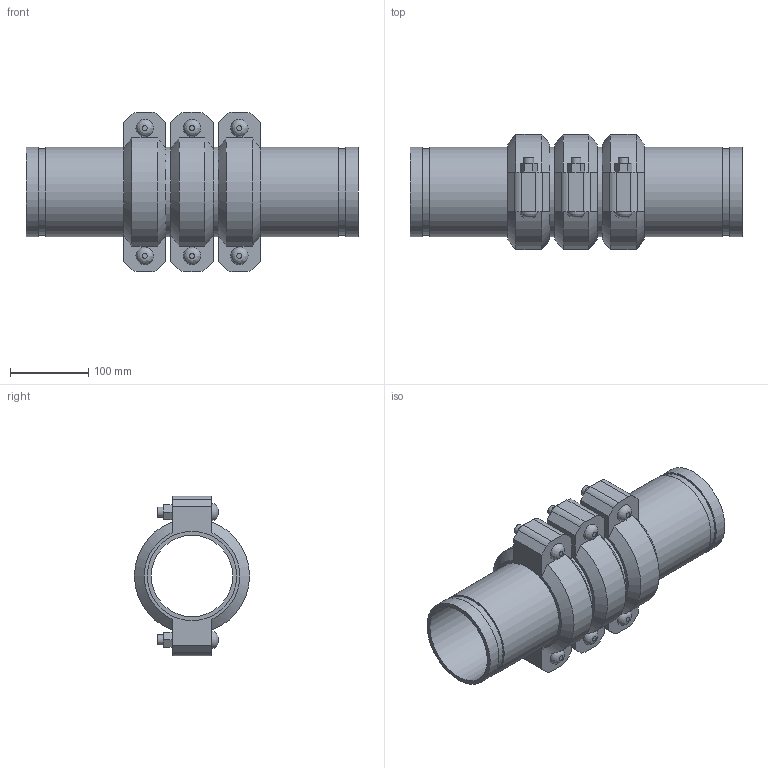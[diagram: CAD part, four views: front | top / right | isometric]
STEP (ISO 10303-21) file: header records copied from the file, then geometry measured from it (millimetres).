
FILE_DESCRIPTION(/* description */ ('VIC EXPANSION JOINT 3 COUPLINGS COMPRESSED STYLE 155 (OGS)','CAx-IF Rec.Pracs.---Representation and Presentation of Product Manufacturing Information (PMI)---4.0---2014-10-13'),/* implementation_level */ '2;1');
FILE_NAME(/* name */ 'C:\Users\kkamble\AppData\Roaming\Autodesk\ApplicationPlugins\Victaulic.Temp\A971\Victaulic_IPS_Expansion Joint_Compressed_3 Couplings_Style 155 (OGS)_4 (100).stp',/* time_stamp */ '2021-06-27T00:25:32+02:00',/* author */ ('kkamble'),/* organization */ ('Victaulic'),/* preprocessor_version */ 'ST-DEVELOPER v17.2',/* originating_system */ 'Autodesk Inventor 2019',/* authorisation */ '');
FILE_SCHEMA (('AP242_MANAGED_MODEL_BASED_3D_ENGINEERING_MIM_LF { 1 0 10303 442 1 1 4 }'));
Length unit declared in the file: inch
Products named in the file (4): 155-04.0; Nipple-04.0; Nipple-04.0_1; 075_3_Coup-04.0
Assembly tree (7 placements, depth 2):
  155-04.0
    Nipple-04.0  x2
    Nipple-04.0_1  x2
    075_3_Coup-04.0  x3
Bounding box: 424.94 x 147.32 x 203.96 mm (x, y, z)
Volume: 2132775.6 mm3; surface area: 549445.6 mm2
Topology: 7 solids, 13 shells, 219 faces, 519 edges, 366 vertices
Faces by surface type: plane 132, cylinder 69, cone 12, bspline 6
Full cylindrical faces by diameter (mm): 12.7 x12, 14.605 x6, 103.988 x4, 107.95 x3, 110.084 x8, 114.3 x18
Entity records: 2778 total; most frequent: CARTESIAN_POINT 491, DIRECTION 457, ORIENTED_EDGE 386, EDGE_CURVE 193, AXIS2_PLACEMENT_3D 182, VERTEX_POINT 138, EDGE_LOOP 107, LINE 93
